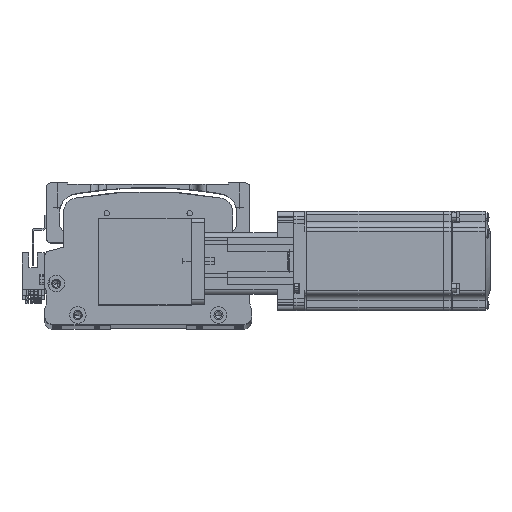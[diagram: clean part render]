
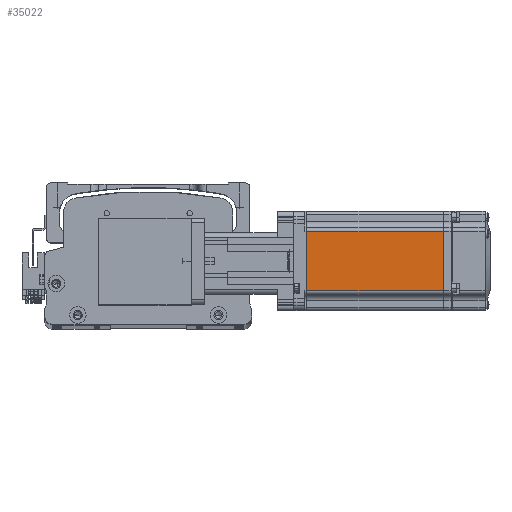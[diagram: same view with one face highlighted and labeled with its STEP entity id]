
A CAD part, top view. The second image highlights one B-rep face of the part: STEP entity #35022.
In plain terms, the highlighted planar face has unit normal (0, 0, 1) as drawn and (0, -1, 0) by its records, which use the part's own axes.
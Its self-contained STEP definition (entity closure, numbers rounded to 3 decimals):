
#3796 = DIRECTION ( 'NONE',  ( 0., 0., -1. ) ) ;
#5089 = LINE ( 'NONE', #11472, #30168 ) ;
#6205 = ORIENTED_EDGE ( 'NONE', *, *, #46821, .F. ) ;
#6737 = EDGE_CURVE ( 'NONE', #17883, #57719, #5089, .T. ) ;
#7893 = PLANE ( 'NONE',  #18016 ) ;
#9159 = DIRECTION ( 'NONE',  ( -1., 0., 0. ) ) ;
#9706 = LINE ( 'NONE', #55522, #48119 ) ;
#11472 = CARTESIAN_POINT ( 'NONE',  ( -6.5, -30., 18. ) ) ;
#11531 = ORIENTED_EDGE ( 'NONE', *, *, #53447, .F. ) ;
#13954 = CARTESIAN_POINT ( 'NONE',  ( -6.5, -30., -18. ) ) ;
#14573 = ORIENTED_EDGE ( 'NONE', *, *, #61864, .T. ) ;
#16177 = VECTOR ( 'NONE', #9159, 1000. ) ;
#17486 = CARTESIAN_POINT ( 'NONE',  ( -7.75, -30., -18. ) ) ;
#17883 = VERTEX_POINT ( 'NONE', #39343 ) ;
#18016 = AXIS2_PLACEMENT_3D ( 'NONE', #28023, #63142, #33103 ) ;
#18095 = VERTEX_POINT ( 'NONE', #61277 ) ;
#19561 = CARTESIAN_POINT ( 'NONE',  ( -90.45, -30., 18. ) ) ;
#21975 = EDGE_LOOP ( 'NONE', ( #11531, #57293, #14573, #6205 ) ) ;
#28023 = CARTESIAN_POINT ( 'NONE',  ( -6.5, -30., -25. ) ) ;
#29552 = LINE ( 'NONE', #13954, #16177 ) ;
#30168 = VECTOR ( 'NONE', #31411, 1000. ) ;
#31411 = DIRECTION ( 'NONE',  ( -1., 0., 0. ) ) ;
#33103 = DIRECTION ( 'NONE',  ( 0., 0., -1. ) ) ;
#35022 = ADVANCED_FACE ( 'NONE', ( #47179 ), #7893, .T. ) ;
#39343 = CARTESIAN_POINT ( 'NONE',  ( -7.75, -30., 18. ) ) ;
#40418 = DIRECTION ( 'NONE',  ( 0., 0., -1. ) ) ;
#46821 = EDGE_CURVE ( 'NONE', #64334, #18095, #29552, .T. ) ;
#47073 = VECTOR ( 'NONE', #3796, 1000. ) ;
#47179 = FACE_OUTER_BOUND ( 'NONE', #21975, .T. ) ;
#48119 = VECTOR ( 'NONE', #40418, 1000. ) ;
#53447 = EDGE_CURVE ( 'NONE', #17883, #64334, #60461, .T. ) ;
#55522 = CARTESIAN_POINT ( 'NONE',  ( -90.45, -30., 0. ) ) ;
#57293 = ORIENTED_EDGE ( 'NONE', *, *, #6737, .T. ) ;
#57719 = VERTEX_POINT ( 'NONE', #19561 ) ;
#60461 = LINE ( 'NONE', #63626, #47073 ) ;
#61277 = CARTESIAN_POINT ( 'NONE',  ( -90.45, -30., -18. ) ) ;
#61864 = EDGE_CURVE ( 'NONE', #57719, #18095, #9706, .T. ) ;
#63142 = DIRECTION ( 'NONE',  ( 0., -1., 0. ) ) ;
#63626 = CARTESIAN_POINT ( 'NONE',  ( -7.75, -30., 0. ) ) ;
#64334 = VERTEX_POINT ( 'NONE', #17486 ) ;
